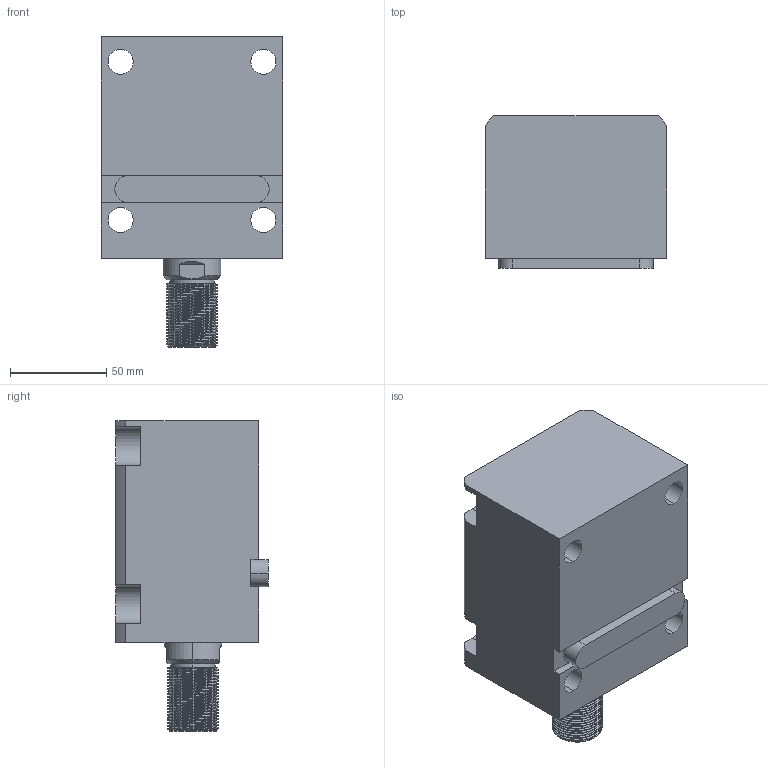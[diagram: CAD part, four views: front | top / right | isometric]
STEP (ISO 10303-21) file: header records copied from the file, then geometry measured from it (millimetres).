
FILE_DESCRIPTION (( 'STEP AP203' ), '1' );
FILE_NAME ('CHTB-LA50-55W.STEP', '2018-05-18T01:38:04', ( '' ), ( '' ), 'SwSTEP 2.0', 'SolidWorks 2015', '' );
FILE_SCHEMA (( 'CONFIG_CONTROL_DESIGN' ));
Length unit declared in the file: millimetre
Products named in the file (4): 活塞杆LA50-55W; CHTM-SDMA50QG; 掛极LA50-55W; CHTB-LA50-55W
Assembly tree (3 placements, depth 2):
  CHTB-LA50-55W
    掛极LA50-55W
    活塞杆LA50-55W
    CHTM-SDMA50QG
Bounding box: 94 x 79 x 161 mm (x, y, z)
Volume: 700808.7 mm3; surface area: 118802.5 mm2
Topology: 3 solids, 3 shells, 244 faces, 670 edges, 447 vertices
Faces by surface type: cylinder 136, plane 55, cone 21, bspline 16, torus 16
Entity records: 15046 total; most frequent: CARTESIAN_POINT 8903, ORIENTED_EDGE 1332, DIRECTION 1073, EDGE_CURVE 666, VERTEX_POINT 447, AXIS2_PLACEMENT_3D 416, EDGE_LOOP 277, FACE_OUTER_BOUND 244
